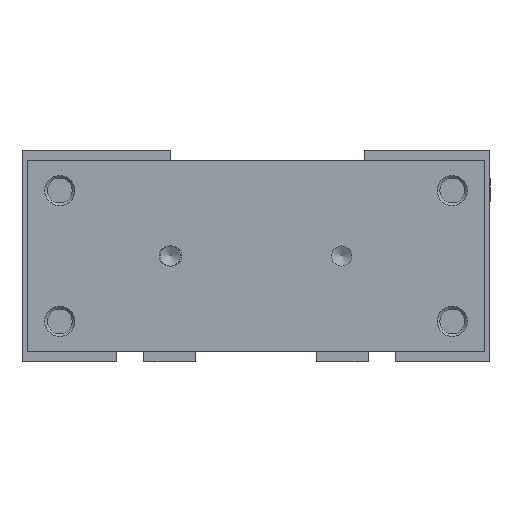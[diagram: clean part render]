
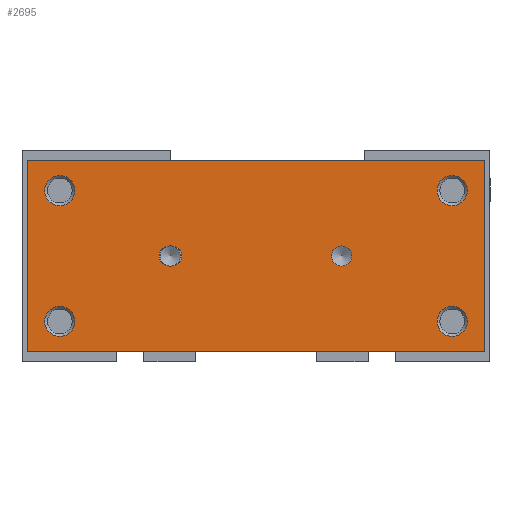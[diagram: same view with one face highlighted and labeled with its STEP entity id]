
A CAD part, left-side view. The second image highlights one B-rep face of the part: STEP entity #2695.
In plain terms, the highlighted planar face has unit normal (-1, 0, 0) as drawn and (0, 0, 1) by its records, which use the part's own axes.
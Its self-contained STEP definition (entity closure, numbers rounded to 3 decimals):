
#300=LINE('',#4462,#500);
#304=LINE('',#4471,#504);
#307=LINE('',#4477,#507);
#310=LINE('',#4483,#510);
#312=LINE('',#4514,#512);
#313=LINE('',#4518,#513);
#500=VECTOR('',#3673,1000.);
#504=VECTOR('',#3679,1000.);
#507=VECTOR('',#3684,1000.);
#510=VECTOR('',#3689,1000.);
#512=VECTOR('',#3721,1000.);
#513=VECTOR('',#3724,1000.);
#1067=ORIENTED_EDGE('',*,*,#1463,.F.);
#1068=ORIENTED_EDGE('',*,*,#1464,.F.);
#1069=ORIENTED_EDGE('',*,*,#1465,.F.);
#1070=ORIENTED_EDGE('',*,*,#1466,.F.);
#1071=ORIENTED_EDGE('',*,*,#1467,.F.);
#1072=ORIENTED_EDGE('',*,*,#1468,.F.);
#1073=ORIENTED_EDGE('',*,*,#1469,.F.);
#1074=ORIENTED_EDGE('',*,*,#1470,.F.);
#1075=ORIENTED_EDGE('',*,*,#1471,.F.);
#1076=ORIENTED_EDGE('',*,*,#1444,.T.);
#1077=ORIENTED_EDGE('',*,*,#1448,.T.);
#1078=ORIENTED_EDGE('',*,*,#1451,.T.);
#1079=ORIENTED_EDGE('',*,*,#1454,.T.);
#1444=EDGE_CURVE('',#1719,#1720,#300,.T.);
#1448=EDGE_CURVE('',#1720,#1723,#304,.T.);
#1451=EDGE_CURVE('',#1723,#1725,#307,.T.);
#1454=EDGE_CURVE('',#1725,#1719,#310,.T.);
#1463=EDGE_CURVE('',#1734,#1734,#1879,.T.);
#1464=EDGE_CURVE('',#1735,#1735,#1880,.T.);
#1465=EDGE_CURVE('',#1736,#1736,#1881,.T.);
#1466=EDGE_CURVE('',#1737,#1737,#1882,.T.);
#1467=EDGE_CURVE('',#1738,#1738,#1883,.T.);
#1468=EDGE_CURVE('',#1739,#1740,#1884,.T.);
#1469=EDGE_CURVE('',#1741,#1739,#312,.T.);
#1470=EDGE_CURVE('',#1742,#1741,#1885,.T.);
#1471=EDGE_CURVE('',#1740,#1742,#313,.T.);
#1719=VERTEX_POINT('',#4463);
#1720=VERTEX_POINT('',#4464);
#1723=VERTEX_POINT('',#4472);
#1725=VERTEX_POINT('',#4478);
#1734=VERTEX_POINT('',#4502);
#1735=VERTEX_POINT('',#4504);
#1736=VERTEX_POINT('',#4506);
#1737=VERTEX_POINT('',#4508);
#1738=VERTEX_POINT('',#4510);
#1739=VERTEX_POINT('',#4512);
#1740=VERTEX_POINT('',#4513);
#1741=VERTEX_POINT('',#4515);
#1742=VERTEX_POINT('',#4517);
#1879=CIRCLE('',#3004,3.);
#1880=CIRCLE('',#3005,3.);
#1881=CIRCLE('',#3006,3.);
#1882=CIRCLE('',#3007,3.);
#1883=CIRCLE('',#3008,2.);
#1884=CIRCLE('',#3009,2.);
#1885=CIRCLE('',#3010,2.);
#2115=EDGE_LOOP('',(#1067));
#2116=EDGE_LOOP('',(#1068));
#2117=EDGE_LOOP('',(#1069));
#2118=EDGE_LOOP('',(#1070));
#2119=EDGE_LOOP('',(#1071));
#2120=EDGE_LOOP('',(#1072,#1073,#1074,#1075));
#2121=EDGE_LOOP('',(#1076,#1077,#1078,#1079));
#2405=FACE_BOUND('',#2115,.T.);
#2406=FACE_BOUND('',#2116,.T.);
#2407=FACE_BOUND('',#2117,.T.);
#2408=FACE_BOUND('',#2118,.T.);
#2409=FACE_BOUND('',#2119,.T.);
#2410=FACE_BOUND('',#2120,.T.);
#2411=FACE_BOUND('',#2121,.T.);
#2548=PLANE('',#3003);
#2695=ADVANCED_FACE('',(#2405,#2406,#2407,#2408,#2409,#2410,#2411),#2548,
 .T.);
#3003=AXIS2_PLACEMENT_3D('',#4500,#3707,#3708);
#3004=AXIS2_PLACEMENT_3D('',#4501,#3709,#3710);
#3005=AXIS2_PLACEMENT_3D('',#4503,#3711,#3712);
#3006=AXIS2_PLACEMENT_3D('',#4505,#3713,#3714);
#3007=AXIS2_PLACEMENT_3D('',#4507,#3715,#3716);
#3008=AXIS2_PLACEMENT_3D('',#4509,#3717,#3718);
#3009=AXIS2_PLACEMENT_3D('',#4511,#3719,#3720);
#3010=AXIS2_PLACEMENT_3D('',#4516,#3722,#3723);
#3673=DIRECTION('',(0.,-1.,0.));
#3679=DIRECTION('',(1.,0.,0.));
#3684=DIRECTION('',(0.,1.,0.));
#3689=DIRECTION('',(-1.,0.,0.));
#3707=DIRECTION('',(0.,0.,1.));
#3708=DIRECTION('',(1.,0.,0.));
#3709=DIRECTION('',(0.,0.,1.));
#3710=DIRECTION('',(1.,0.,0.));
#3711=DIRECTION('',(0.,0.,1.));
#3712=DIRECTION('',(1.,0.,0.));
#3713=DIRECTION('',(0.,0.,1.));
#3714=DIRECTION('',(1.,0.,0.));
#3715=DIRECTION('',(0.,0.,1.));
#3716=DIRECTION('',(1.,0.,0.));
#3717=DIRECTION('',(0.,0.,1.));
#3718=DIRECTION('',(1.,0.,0.));
#3719=DIRECTION('',(0.,0.,1.));
#3720=DIRECTION('',(1.,0.,0.));
#3721=DIRECTION('',(0.,1.,0.));
#3722=DIRECTION('',(0.,0.,1.));
#3723=DIRECTION('',(1.,0.,0.));
#3724=DIRECTION('',(0.,-1.,0.));
#4462=CARTESIAN_POINT('',(-19.,45.5,16.));
#4463=CARTESIAN_POINT('',(-19.,45.5,16.));
#4464=CARTESIAN_POINT('',(-19.,-45.5,16.));
#4471=CARTESIAN_POINT('',(-19.,-45.5,16.));
#4472=CARTESIAN_POINT('',(19.,-45.5,16.));
#4477=CARTESIAN_POINT('',(19.,-45.5,16.));
#4478=CARTESIAN_POINT('',(19.,45.5,16.));
#4483=CARTESIAN_POINT('',(19.,45.5,16.));
#4500=CARTESIAN_POINT('',(0.,0.,16.));
#4501=CARTESIAN_POINT('',(-13.,39.,16.));
#4502=CARTESIAN_POINT('',(-10.,39.,16.));
#4503=CARTESIAN_POINT('',(13.,39.,16.));
#4504=CARTESIAN_POINT('',(16.,39.,16.));
#4505=CARTESIAN_POINT('',(-13.,-39.,16.));
#4506=CARTESIAN_POINT('',(-10.,-39.,16.));
#4507=CARTESIAN_POINT('',(13.,-39.,16.));
#4508=CARTESIAN_POINT('',(16.,-39.,16.));
#4509=CARTESIAN_POINT('',(0.,-17.,16.));
#4510=CARTESIAN_POINT('',(2.,-17.,16.));
#4511=CARTESIAN_POINT('',(0.,17.25,16.));
#4512=CARTESIAN_POINT('',(2.,17.25,16.));
#4513=CARTESIAN_POINT('',(-2.,17.25,16.));
#4514=CARTESIAN_POINT('',(2.,16.75,16.));
#4515=CARTESIAN_POINT('',(2.,16.75,16.));
#4516=CARTESIAN_POINT('',(0.,16.75,16.));
#4517=CARTESIAN_POINT('',(-2.,16.75,16.));
#4518=CARTESIAN_POINT('',(-2.,17.25,16.));
